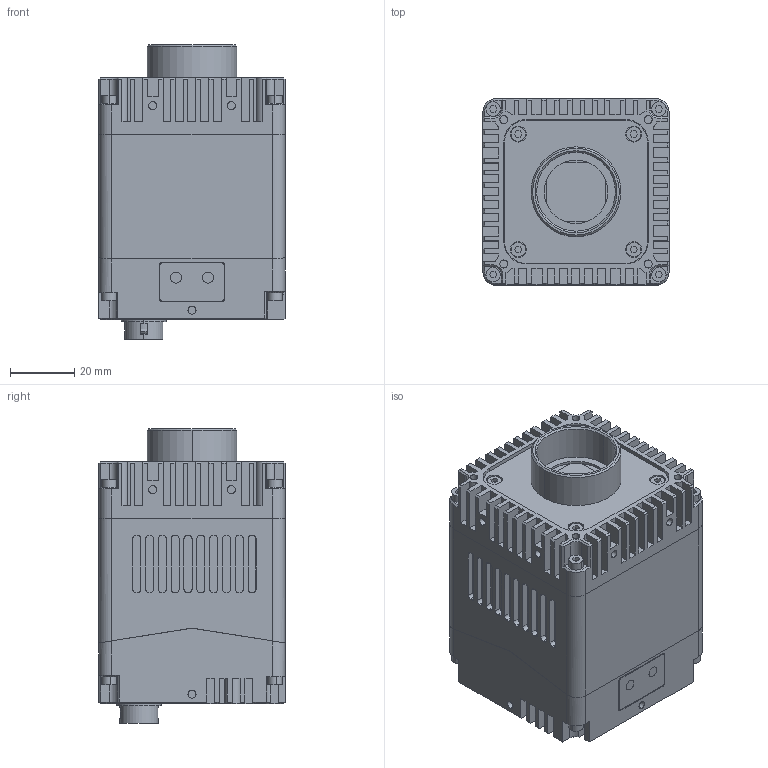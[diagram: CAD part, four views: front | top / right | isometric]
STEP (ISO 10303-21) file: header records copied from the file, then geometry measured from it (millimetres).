
FILE_DESCRIPTION (( 'STEP AP203' ), '1' );
FILE_NAME ('mars_swir_user_s1.0.2.STEP', '2024-03-07T01:56:22', ( '' ), ( '' ), 'SwSTEP 2.0', 'SolidWorks 2016', '' );
FILE_SCHEMA (( 'CONFIG_CONTROL_DESIGN' ));
Length unit declared in the file: millimetre
Products named in the file (1): mars_swir_user_s1.0.2
Bounding box: 58 x 58 x 91.81 mm (x, y, z)
Volume: 206664 mm3; surface area: 84650.9 mm2
Topology: 34 solids, 41 shells, 2492 faces, 6575 edges, 4302 vertices
Faces by surface type: plane 1626, cylinder 659, cone 92, bspline 91, torus 24
Entity records: 81843 total; most frequent: CARTESIAN_POINT 19999, ORIENTED_EDGE 13118, DIRECTION 12315, EDGE_CURVE 6559, LINE 4803, VECTOR 4803, VERTEX_POINT 4302, AXIS2_PLACEMENT_3D 3756
